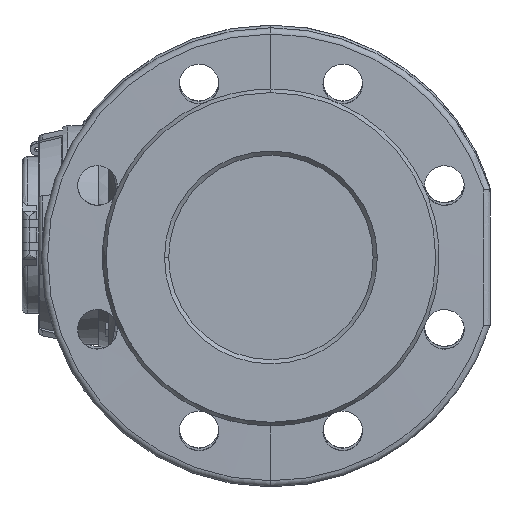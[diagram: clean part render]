
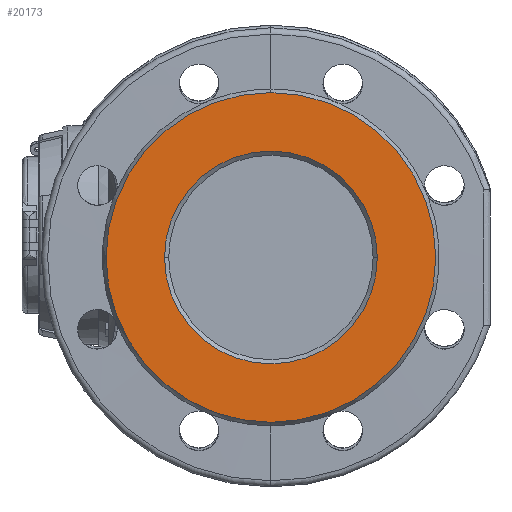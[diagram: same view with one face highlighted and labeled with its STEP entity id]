
A CAD part, left-side view. The second image highlights one B-rep face of the part: STEP entity #20173.
In plain terms, the highlighted planar face has unit normal (-1, 0, -0.006).
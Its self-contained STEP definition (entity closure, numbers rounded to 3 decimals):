
#3822 = CARTESIAN_POINT ( 'NONE',  ( 38.275, 98.683, -3.03 ) ) ;
#5701 = VERTEX_POINT ( 'NONE', #35892 ) ;
#6025 = DIRECTION ( 'NONE',  ( 1., 0., 0.006 ) ) ;
#6659 = EDGE_CURVE ( 'NONE', #76412, #67876, #40189, .T. ) ;
#10095 = CIRCLE ( 'NONE', #54018, 51. ) ;
#14407 = CIRCLE ( 'NONE', #24570, 79. ) ;
#17194 = CARTESIAN_POINT ( 'NONE',  ( 38.275, 47.683, -3.03 ) ) ;
#18027 = DIRECTION ( 'NONE',  ( 0.006, 0., -1. ) ) ;
#20173 = ADVANCED_FACE ( 'NONE', ( #46161, #58279 ), #52421, .F. ) ;
#20851 = DIRECTION ( 'NONE',  ( 0.006, 0., -1. ) ) ;
#21652 = CARTESIAN_POINT ( 'NONE',  ( 38.275, 98.683, -3.03 ) ) ;
#22398 = DIRECTION ( 'NONE',  ( 1., 0., 0.006 ) ) ;
#24570 = AXIS2_PLACEMENT_3D ( 'NONE', #47472, #31057, #18027 ) ;
#25366 = ORIENTED_EDGE ( 'NONE', *, *, #47452, .T. ) ;
#26748 = EDGE_CURVE ( 'NONE', #5701, #55611, #33824, .T. ) ;
#29052 = EDGE_LOOP ( 'NONE', ( #30035, #67733 ) ) ;
#30035 = ORIENTED_EDGE ( 'NONE', *, *, #49917, .F. ) ;
#31057 = DIRECTION ( 'NONE',  ( 1., 0., 0.006 ) ) ;
#32268 = CARTESIAN_POINT ( 'NONE',  ( 38.275, 98.683, -3.03 ) ) ;
#33824 = CIRCLE ( 'NONE', #77539, 51. ) ;
#35892 = CARTESIAN_POINT ( 'NONE',  ( 38.275, 149.683, -3.03 ) ) ;
#36623 = CARTESIAN_POINT ( 'NONE',  ( 37.832, 98.683, 75.969 ) ) ;
#39859 = ORIENTED_EDGE ( 'NONE', *, *, #26748, .T. ) ;
#40189 = CIRCLE ( 'NONE', #56432, 79. ) ;
#46161 = FACE_BOUND ( 'NONE', #67303, .T. ) ;
#46294 = DIRECTION ( 'NONE',  ( 1., 0., 0.006 ) ) ;
#47452 = EDGE_CURVE ( 'NONE', #55611, #5701, #10095, .T. ) ;
#47472 = CARTESIAN_POINT ( 'NONE',  ( 38.275, 98.683, -3.03 ) ) ;
#49917 = EDGE_CURVE ( 'NONE', #67876, #76412, #14407, .T. ) ;
#51045 = DIRECTION ( 'NONE',  ( 0., 1., 0. ) ) ;
#52421 = PLANE ( 'NONE',  #70889 ) ;
#54018 = AXIS2_PLACEMENT_3D ( 'NONE', #21652, #22398, #51045 ) ;
#54343 = DIRECTION ( 'NONE',  ( 0.006, 0., -1. ) ) ;
#55611 = VERTEX_POINT ( 'NONE', #17194 ) ;
#56432 = AXIS2_PLACEMENT_3D ( 'NONE', #32268, #74492, #20851 ) ;
#58014 = DIRECTION ( 'NONE',  ( 0., 1., 0. ) ) ;
#58279 = FACE_OUTER_BOUND ( 'NONE', #29052, .T. ) ;
#59417 = CARTESIAN_POINT ( 'NONE',  ( 37.832, 98.683, 75.969 ) ) ;
#67303 = EDGE_LOOP ( 'NONE', ( #25366, #39859 ) ) ;
#67733 = ORIENTED_EDGE ( 'NONE', *, *, #6659, .F. ) ;
#67876 = VERTEX_POINT ( 'NONE', #77070 ) ;
#70889 = AXIS2_PLACEMENT_3D ( 'NONE', #59417, #6025, #54343 ) ;
#74492 = DIRECTION ( 'NONE',  ( 1., 0., 0.006 ) ) ;
#76412 = VERTEX_POINT ( 'NONE', #36623 ) ;
#77070 = CARTESIAN_POINT ( 'NONE',  ( 38.718, 98.683, -82.028 ) ) ;
#77539 = AXIS2_PLACEMENT_3D ( 'NONE', #3822, #46294, #58014 ) ;
